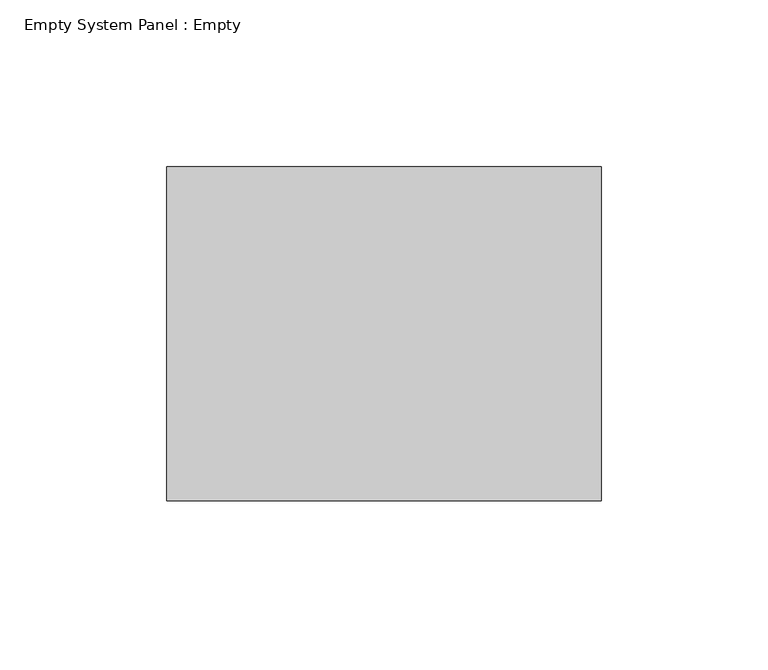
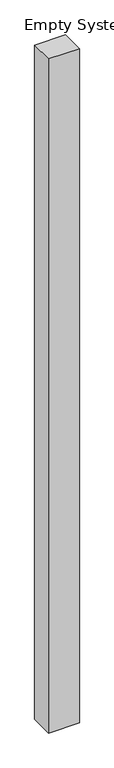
"""IFC4 building model written with IfcOpenShell, lengths in millimetres: plate geometry, Empty System Panel : Empty."""

import ifcopenshell
import ifcopenshell.guid

model = None  # the IFC model being written
_history = None  # IfcOwnerHistory: only IFC2X3 demands one
_inside = {}  # id of a spatial element -> (the spatial element, [elements in it])
_under = {}  # id of a project, library or spatial element -> (it, [spatial elements below it])
_declared = {}  # id of a project -> (the project, [libraries it declares])
_typed = {}  # id of a type object -> (the type object, [elements of that type])
_made_of = {}  # id of a material, layer set ... -> (it, [elements and type objects made of it])


def new_model(schema):
    """Start an empty IFC model of exactly this schema.

    Asked for "IFC4X3", IfcOpenShell would pick the latest addendum, in which some entities
    have other attributes; the version numbers below select the first issue.
    IFC2X3 requires an IfcOwnerHistory on every rooted entity: one is made here for all.
    """
    global model, _history
    if schema == "IFC4X3":
        model = ifcopenshell.file(schema_version=(4, 3, 0, 0))
    else:
        model = ifcopenshell.file(schema=schema)
    _inside.clear()
    _under.clear()
    _declared.clear()
    _typed.clear()
    _made_of.clear()
    _history = None
    if model.schema == "IFC2X3":
        org = make("IfcOrganization", Name="unknown")
        user = make(
            "IfcPersonAndOrganization",
            ThePerson=make("IfcPerson", FamilyName="unknown"),
            TheOrganization=org,
        )
        app = make(
            "IfcApplication",
            ApplicationDeveloper=org,
            Version="unknown",
            ApplicationFullName="unknown",
            ApplicationIdentifier="unknown",
        )
        _history = make(
            "IfcOwnerHistory",
            OwningUser=user,
            OwningApplication=app,
            ChangeAction="ADDED",
            CreationDate=0,
        )
    return model


def make(cls, **values):
    """One entity of the class cls with the attributes given. An attribute that is None is left unset."""
    return model.create_entity(
        cls, **{name: value for name, value in values.items() if value is not None}
    )


def rooted(cls, **values):
    """An entity with a GlobalId (a new one), such as an element, a storey or a relation."""
    return make(cls, GlobalId=ifcopenshell.guid.new(), OwnerHistory=_history, **values)


def si_unit(unit_type, name, prefix=None):
    """IfcSIUnit, for example si_unit("LENGTHUNIT", "METRE", prefix="MILLI")."""
    return make("IfcSIUnit", UnitType=unit_type, Prefix=prefix, Name=name)


def assignment(units):
    """IfcUnitAssignment: the units of a project."""
    return None if units is None else make("IfcUnitAssignment", Units=units)


def point(xyz):
    """IfcCartesianPoint."""
    return None if xyz is None else make("IfcCartesianPoint", Coordinates=xyz)


def direction(xyz):
    """IfcDirection."""
    return None if xyz is None else make("IfcDirection", DirectionRatios=xyz)


def frame(location, z_axis=None, x_axis=None):
    """IfcAxis2Placement3D, a coordinate frame: its origin and axes. An axis left out is left unset."""
    return make(
        "IfcAxis2Placement3D",
        Location=point(location),
        Axis=direction(z_axis),
        RefDirection=direction(x_axis),
    )


def origin():
    """The frame at (0, 0, 0) with its axes left unset."""
    return frame((0.0, 0.0, 0.0))


def origin_with_axes():
    """The frame at (0, 0, 0) with the z axis (0, 0, 1) and the x axis (1, 0, 0) written out."""
    return frame((0.0, 0.0, 0.0), z_axis=(0.0, 0.0, 1.0), x_axis=(1.0, 0.0, 0.0))


def place(relative_to, where):
    """IfcLocalPlacement: puts the frame where relative to a parent placement (None: the world)."""
    return make(
        "IfcLocalPlacement", PlacementRelTo=relative_to, RelativePlacement=where
    )


def context(
    kind, dimensions, precision=None, world=None, true_north=None, identifier=None
):
    """IfcGeometricRepresentationContext, for example the 3D "Model" context."""
    return make(
        "IfcGeometricRepresentationContext",
        ContextIdentifier=identifier,
        ContextType=kind,
        CoordinateSpaceDimension=dimensions,
        Precision=precision,
        WorldCoordinateSystem=world,
        TrueNorth=true_north,
    )


def project(units=None, contexts=None):
    """IfcProject with its units and contexts."""
    return rooted(
        "IfcProject",
        Name="project",
        RepresentationContexts=contexts,
        UnitsInContext=assignment(units),
    )


def spatial(cls, under=None, at=None, **own):
    """A site, building, storey or space (cls), placed at a placement, below another one or the project."""
    s = rooted(cls, ObjectPlacement=at, **own)
    if under is not None:
        _under.setdefault(under.id(), (under, []))[1].append(s)
    return s


def polyline(points):
    """IfcPolyline through the points."""
    return make("IfcPolyline", Points=[point(p) for p in points])


def outline(outer, holes=None, kind="AREA"):
    """IfcArbitraryClosedProfileDef: a profile drawn as a closed curve; with holes, ...WithVoids."""
    if holes is None:
        return make("IfcArbitraryClosedProfileDef", ProfileType=kind, OuterCurve=outer)
    return make(
        "IfcArbitraryProfileDefWithVoids",
        ProfileType=kind,
        OuterCurve=outer,
        InnerCurves=holes,
    )


def extrude(swept, where, along, depth):
    """IfcExtrudedAreaSolid: the profile swept, set in the frame where, extruded along a direction by depth."""
    return make(
        "IfcExtrudedAreaSolid",
        SweptArea=swept,
        Position=where,
        ExtrudedDirection=direction(along),
        Depth=depth,
    )


def shape(context_of_items, identifier, shape_type, items):
    """IfcShapeRepresentation: the items that make up one representation, for example the "Body"."""
    return make(
        "IfcShapeRepresentation",
        ContextOfItems=context_of_items,
        RepresentationIdentifier=identifier,
        RepresentationType=shape_type,
        Items=items,
    )


def source(mapping_origin, context_of_items, identifier, shape_type, items):
    """IfcRepresentationMap: a shape defined once, which mapped items show again and again."""
    return make(
        "IfcRepresentationMap",
        MappingOrigin=mapping_origin,
        MappedRepresentation=shape(context_of_items, identifier, shape_type, items),
    )


def transform(
    local_origin,
    x_axis=None,
    y_axis=None,
    z_axis=None,
    scale=None,
    scale2=None,
    scale3=None,
    uniform=True,
):
    """IfcCartesianTransformationOperator3D, or its non-uniform kind. x_axis, y_axis, z_axis: its Axis1, 2, 3."""
    if uniform:
        return make(
            "IfcCartesianTransformationOperator3D",
            Axis1=direction(x_axis),
            Axis2=direction(y_axis),
            LocalOrigin=point(local_origin),
            Scale=scale,
            Axis3=direction(z_axis),
        )
    return make(
        "IfcCartesianTransformationOperator3DnonUniform",
        Axis1=direction(x_axis),
        Axis2=direction(y_axis),
        LocalOrigin=point(local_origin),
        Scale=scale,
        Axis3=direction(z_axis),
        Scale2=scale2,
        Scale3=scale3,
    )


def mapped(mapping_source, mapping_target):
    """IfcMappedItem: shows the shape of a source again, moved by a transform."""
    return make(
        "IfcMappedItem", MappingSource=mapping_source, MappingTarget=mapping_target
    )


def made_of(thing, what):
    """Note that an element or type object is made of a material, layer set ...; save() writes the relation."""
    if what is not None:
        _made_of.setdefault(what.id(), (what, []))[1].append(thing)
    return thing


def element(
    cls,
    number,
    at=None,
    inside=None,
    cuts=None,
    type_object=None,
    material=None,
    context=None,
    identifier="Body",
    shape_type=None,
    held_by="IfcProductDefinitionShape",
    body=None,
    shapes=None,
    **own,
):
    """One element of the class cls, such as IfcWall. Its Tag is "e" and its number.

    at: its placement. inside: the storey or other place that contains it. cuts: it is an
    opening in that element (IfcRelVoidsElement). A single representation is given by context,
    identifier, shape_type and body (its items); several are given by shapes. held_by: the class
    of the entity that holds the representations. save() writes the other relations.
    """
    e = rooted(cls, Tag="e%d" % number, ObjectPlacement=at, **own)
    if body is not None:
        shapes = [shape(context, identifier, shape_type, body)]
    if shapes is not None:
        e.Representation = make(held_by, Representations=shapes)
    if inside is not None:
        _inside.setdefault(inside.id(), (inside, []))[1].append(e)
    if cuts is not None:
        rooted(
            "IfcRelVoidsElement", RelatingBuildingElement=cuts, RelatedOpeningElement=e
        )
    if type_object is not None:
        _typed.setdefault(type_object.id(), (type_object, []))[1].append(e)
    return made_of(e, material)


def aggregate(whole, parts):
    """IfcRelAggregates: a whole, such as a stair, and the parts it consists of."""
    return rooted("IfcRelAggregates", RelatingObject=whole, RelatedObjects=parts)


def save(model, path):
    """Write the relations noted so far, then the file.

    IfcRelAggregates (storeys below a building ...), IfcRelContainedInSpatialStructure (elements
    in a storey), IfcRelDefinesByType, IfcRelAssociatesMaterial and IfcRelDeclares: one each for
    every whole, place, type object, material and project.
    """
    for whole, parts in _under.values():
        aggregate(whole, parts)
    for where, things in _inside.values():
        rooted(
            "IfcRelContainedInSpatialStructure",
            RelatedElements=things,
            RelatingStructure=where,
        )
    for kind, things in _typed.values():
        rooted("IfcRelDefinesByType", RelatedObjects=things, RelatingType=kind)
    for what, things in _made_of.values():
        rooted("IfcRelAssociatesMaterial", RelatedObjects=things, RelatingMaterial=what)
    for by, libraries in _declared.values():
        rooted("IfcRelDeclares", RelatingContext=by, RelatedDefinitions=libraries)
    model.write(path)


def empty_system_panel_empty_b664eb17(model_context):
    return source(origin(), model_context, "Body", "SweptSolid", [
        extrude(outline(polyline([(65.0000002, 50.0), (-65.0000002, 50.0), (-65.0000002, 150.0), (65.0000002, 150.0), (65.0000002, 50.0)])), origin_with_axes(), (0.0, 0.0, 1.0), 3000.0),
    ])


if __name__ == "__main__":
    model = new_model("IFC4")
    model_context = context("Model", 3, world=origin())
    ifc_project = project(units=[si_unit("LENGTHUNIT", "METRE", prefix="MILLI")], contexts=[model_context])
    site = spatial("IfcSite", under=ifc_project)
    building = spatial("IfcBuilding", under=site)
    placement = place(None, origin())
    empty_system_panel_empty_shape = empty_system_panel_empty_b664eb17(model_context)
    element("IfcPlate", 1, ObjectType="Empty System Panel : Empty", at=placement, inside=building, context=model_context, shape_type="MappedRepresentation", body=[
        mapped(empty_system_panel_empty_shape, transform((0.0, 0.0, 0.0), x_axis=(1.0, 0.0, 0.0), y_axis=(0.0, 1.0, 0.0), z_axis=(0.0, 0.0, 1.0))),
    ])
    save(model, "model.ifc")
